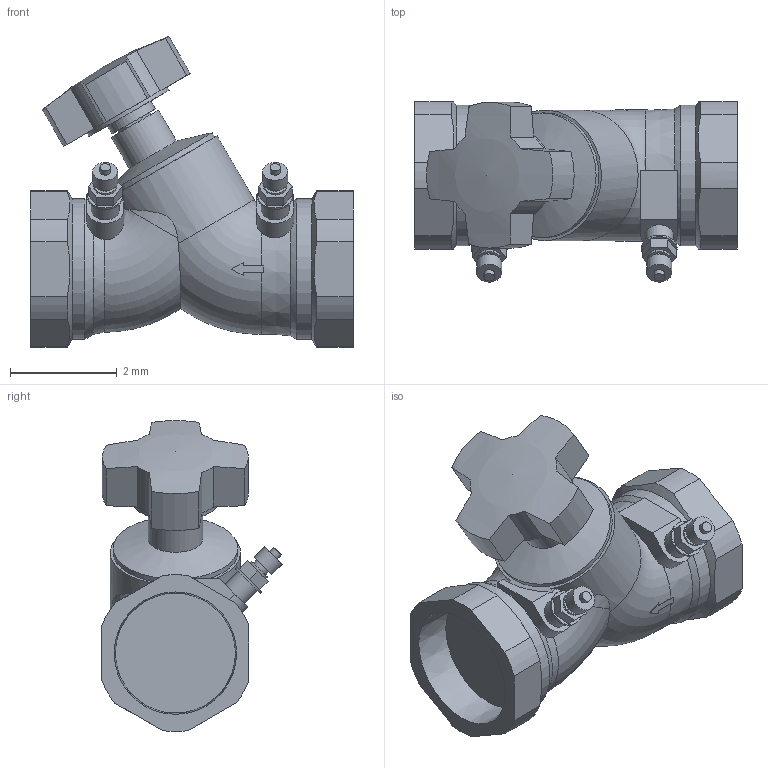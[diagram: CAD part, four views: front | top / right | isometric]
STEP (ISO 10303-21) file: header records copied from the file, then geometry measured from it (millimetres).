
FILE_DESCRIPTION(('Open CASCADE Model'),'2;1');
FILE_NAME('Open CASCADE Shape Model','2021-09-29T14:02:38',('Author'),( 'Open CASCADE'),'Open CASCADE STEP processor 7.3','Open CASCADE 7.3' ,'Unknown');
FILE_SCHEMA(('AUTOMOTIVE_DESIGN { 1 0 10303 214 1 1 1 1 }'));
Length unit declared in the file: millimetre
Products named in the file (1): Open CASCADE STEP translator 7.3 1
Bounding box: 6.05 x 3.38 x 5.84 mm (x, y, z)
Volume: 35.7 mm3; surface area: 106.3 mm2
Topology: 1 solids, 2 shells, 159 faces, 398 edges, 261 vertices
Faces by surface type: plane 100, cylinder 44, cone 11, torus 3, sphere 1
Full cylindrical faces by diameter (mm): 0.195 x2, 0.32 x2, 0.43 x2, 0.47 x2, 0.525 x2, 0.67 x2, 0.94 x1, 1.023 x1, 1.737 x1, 2.34 x1, 2.635 x2
Entity records: 13520 total; most frequent: CARTESIAN_POINT 5846, DIRECTION 1377, ORIENTED_EDGE 792, PCURVE 792, DEFINITIONAL_REPRESENTATION 792, LINE 758, VECTOR 758, EDGE_CURVE 396
